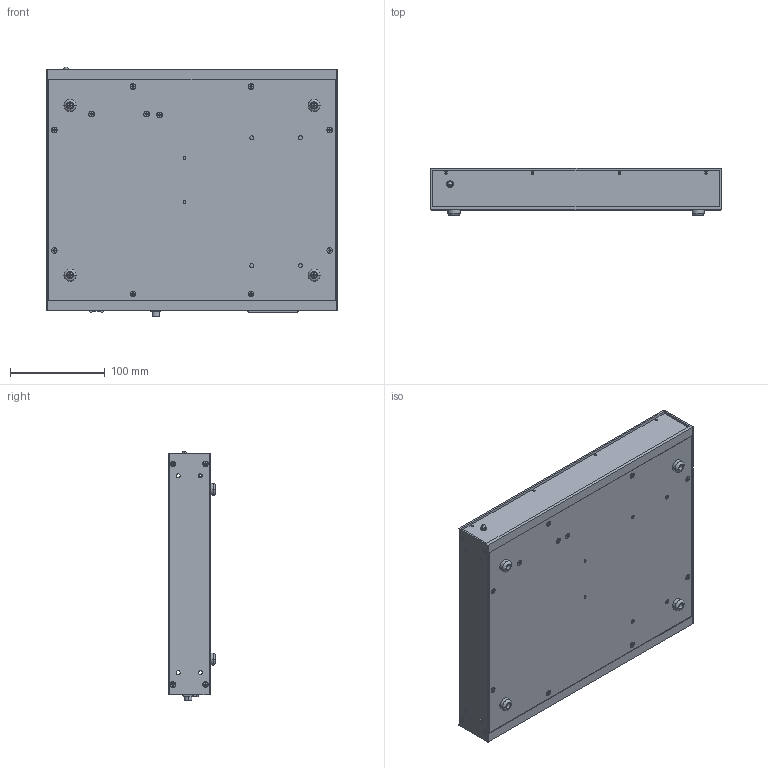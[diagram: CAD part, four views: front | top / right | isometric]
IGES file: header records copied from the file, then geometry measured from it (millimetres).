
Start section:  PTC IGES file: cu_usb_daqpade_mass_term.igs
Global section: file name: cu_usb_daqpade_mass_term.igs; native system: Pro/ENGINEER by Parametric Technology Corporation; preprocessor: 2006080; author: jpearson; organization: Unknown; date: 070828.090614; units: inch
Bounding box: 306.32 x 49.78 x 262.86 mm (x, y, z)
Surface area: 465865 mm2 (no closed solid volume)
Topology: 0 solids, 0 shells, 1913 faces, 9924 edges, 9282 vertices
Faces by surface type: bspline 1355, revolution 558
